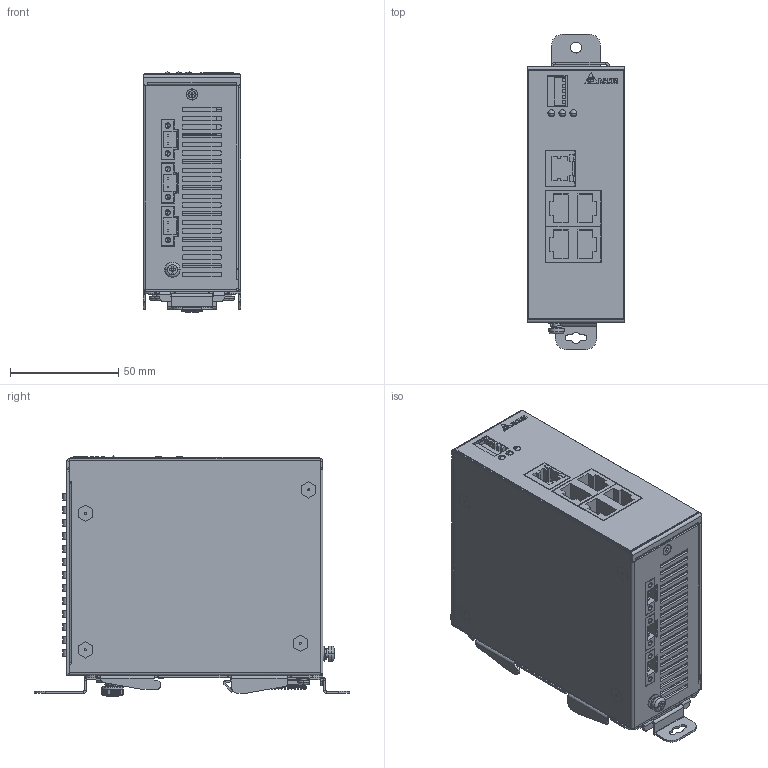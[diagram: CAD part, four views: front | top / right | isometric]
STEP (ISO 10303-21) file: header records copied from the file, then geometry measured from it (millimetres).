
FILE_DESCRIPTION((''),'2;1');
FILE_NAME('DVS-005W01_ASM','2014-12-08T',('ANDREW.AS.SUN'),(''),'PRO/ENGINEER BY PARAMETRIC TECHNOLOGY CORPORATION, 2010280','PRO/ENGINEER BY PARAMETRIC TECHNOLOGY CORPORATION, 2010280','');
FILE_SCHEMA(('CONFIG_CONTROL_DESIGN'));
Products named in the file (24): BASE-8P; COVER-8P; PANEL-8P; PCB-M-8P; DIN-SWITCH-5PIN; 1X3_G-G; TB293; 307229417C; 307228297C-EM50188GF2NN46PF; PCB-M-16P_ASM; NAMEPLATE; 3105460500; LOGO-2; STUD_M3_0-S; BACK_PLATE_2; SCREW_M4; SNAP; SPRING; SNAP_2; 46-111-501-1_20100903_; SNAP2_ASM; 3100320300-SCREW; STUD_M3_0; DVS-005W01_ASM
Assembly tree (38 placements, depth 3):
  DVS-005W01_ASM
    BASE-8P
    COVER-8P
    PANEL-8P
    PCB-M-16P_ASM
      PCB-M-8P
      DIN-SWITCH-5PIN
      1X3_G-G
      TB293  x3
      307229417C  x2
      307228297C-EM50188GF2NN46PF
    NAMEPLATE
    3105460500  x8
    LOGO-2
    STUD_M3_0-S  x2
    BACK_PLATE_2
    SCREW_M4
    SNAP
    SPRING
    SNAP2_ASM
      SNAP_2
      46-111-501-1_20100903_
    3100320300-SCREW  x4
    STUD_M3_0  x2
Bounding box: 45 x 145.3 x 110.62 mm (x, y, z)
Volume: 95480.1 mm3; surface area: 154343.3 mm2
Topology: 42 solids, 53 shells, 3285 faces, 8315 edges, 5202 vertices
Faces by surface type: plane 1733, cylinder 1102, bspline 233, cone 110, extrusion 53, torus 48, sphere 6
Entity records: 92925 total; most frequent: CARTESIAN_POINT 31401, ORIENTED_EDGE 12757, DIRECTION 12507, EDGE_CURVE 6408, AXIS2_PLACEMENT_3D 4227, VECTOR 4053, LINE 4000, VERTEX_POINT 3998
